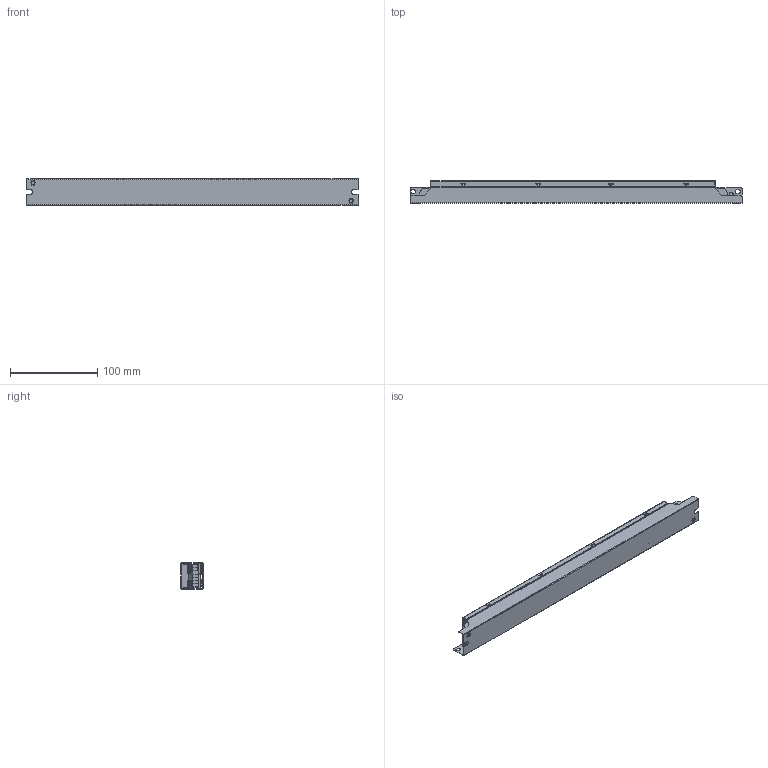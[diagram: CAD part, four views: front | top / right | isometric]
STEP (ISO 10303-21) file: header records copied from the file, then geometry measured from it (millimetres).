
FILE_DESCRIPTION((''),'2;1');
FILE_NAME('MAC085TD2300UD-YU6_241022_ASM','2026-07-20T14:41:16',('15365'),(''),'CREO PARAMETRIC BY PTC INC, 2025323','CREO PARAMETRIC BY PTC INC, 2025323','');
FILE_SCHEMA(('CONFIG_CONTROL_DESIGN','SHAPE_APPEARANCE_LAYERS_GROUPS'));
Length unit declared in the file: inch
Products named in the file (165): 85W_BOTTOM_21_1_1_1_1; 85W_TOP_24_1_1_1_1; NEILUOWEN-M3_10_1_1_2_1_1_1; OPEN_CASCADE_STEP_TRANSLATO-247; OPEN_CASCADE_STEP_TRANSLATO-237_ASM; BOARD_ASM_10_ASM_1_ASM_1_ASM_1_ASM; R_1206-7060_1_1_1_1_1; R_1206-7060_2_1_1_1_1; R_1206-7060_3_1_1_1_1; R_1206-7060_ASM_1_ASM_1_ASM_1_1_ASM; LOGO_-11556_1_1_1_1_1; LOGO_-11556_2_1_1_1_1; LOGO_-11556_3_1_1_1_1; LOGO_-11556_4_1_1_1_1; LOGO_-11556_5_1_1_1_1; LOGO_-11556_6_1_1_1_1; LOGO_-11556_7_1_1_1_1; LOGO_-11556_8_1_1_1_1; LOGO_-11556_9_1_1_1_1; LOGO_-11556_10_1_1_1_1; LOGO_-11556_11_1_1_1_1; LOGO_-11556_12_1_1_1_1; LOGO_-11556_13_1_1_1_1; LOGO_-11556_14_1_1_1_1; LOGO_-11556_ASM_1_ASM_1_ASM_1_1_ASM; R_1206-7046_ASM_1_ASM_1_ASM_1_1_ASM; R33_ASM_1_1_ASM_1_ASM_1_ASM_1_ASM; R41_ASM_3_ASM_2_ASM_1_ASM_1_ASM; S1_ASM_2_1_1_1; EXTRUDED-22759_1_1_1_1; 6666250304_ASM_1_ASM_1_ASM_1__1_ASM; R137_ASM_1_ASM_1_ASM_1_ASM_1_ASM; P7_ASM_1_1_1_1; EXTRUDED-34068_1_1_1_1; 6666249824_ASM_1_ASM_1_ASM_1__1_ASM; C80_ASM_1_ASM_1_ASM_1_ASM_1_ASM; C79_ASM_1_ASM_1_ASM_1_ASM_1_ASM; C40_ASM_1_ASM_1_ASM_1_ASM_1_ASM; CIRCUITWORKS-1206_RESISTOR_1_2_; C8_ASM_2_1_ASM_1_ASM_1_ASM_1_ASM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
Assembly tree (193 placements, depth 10):
  MAC085TD2300UD-YU6_241022_ASM
    85_TD_240808_ASM_1_ASM_1_ASM
      85_TD_240521_ASM_1_ASM_1_ASM_1_ASM
        85W-CASE_ASM_10_1_ASM_1_ASM_1_1_ASM
          85W_BOTTOM_21_1_1_1_1
          85W_TOP_24_1_1_1_1
          NEILUOWEN-M3_10_1_1_2_1_1_1  x2
          MAC-TD-PS-MCU_-_0_0001_ASM_2_1__ASM
            PCB_ASM_11_ASM_1_ASM_1_ASM_1_ASM
              BOARD_ASM_10_ASM_1_ASM_1_ASM_1_ASM
                OPEN_CASCADE_STEP_TRANSLATO-237_ASM
                  OPEN_CASCADE_STEP_TRANSLATO-247
              R33_ASM_1_1_ASM_1_ASM_1_ASM_1_ASM
                R_1206-7046_ASM_1_ASM_1_ASM_1_1_ASM
                  R_1206-7060_ASM_1_ASM_1_ASM_1_1_ASM
                  LOGO_-11556_ASM_1_ASM_1_ASM_1_1_ASM
              R41_ASM_3_ASM_2_ASM_1_ASM_1_ASM
                R_1206-7046_ASM_1_ASM_1_ASM_1_1_ASM
                  R_1206-7060_ASM_1_ASM_1_ASM_1_1_ASM
                  LOGO_-11556_ASM_1_ASM_1_ASM_1_1_ASM
              S1_ASM_2_1_1_1
              R137_ASM_1_ASM_1_ASM_1_ASM_1_ASM
                6666250304_ASM_1_ASM_1_ASM_1__1_ASM
                  EXTRUDED-22759_1_1_1_1
              P7_ASM_1_1_1_1
              C80_ASM_1_ASM_1_ASM_1_ASM_1_ASM
                6666249824_ASM_1_ASM_1_ASM_1__1_ASM
                  EXTRUDED-34068_1_1_1_1
              C79_ASM_1_ASM_1_ASM_1_ASM_1_ASM
                6666249824_ASM_1_ASM_1_ASM_1__1_ASM
                  EXTRUDED-34068_1_1_1_1
              C40_ASM_1_ASM_1_ASM_1_ASM_1_ASM
                R_1206-7046_ASM_1_ASM_1_ASM_1_1_ASM
                  R_1206-7060_ASM_1_ASM_1_ASM_1_1_ASM
                  LOGO_-11556_ASM_1_ASM_1_ASM_1_1_ASM
              C8_ASM_2_1_ASM_1_ASM_1_ASM_1_ASM
                CIRCUITWORKS-1206_RESISTOR_1_2_
              C6_ASM_2_ASM_1_ASM_1_ASM_1_ASM
                R_1206-7046_ASM_1_ASM_1_ASM_1_1_ASM
                  R_1206-7060_ASM_1_ASM_1_ASM_1_1_ASM
                  LOGO_-11556_ASM_1_ASM_1_ASM_1_1_ASM
              C5_ASM_1_ASM_1_ASM_1_ASM_1_ASM
                R_1206-7046_ASM_1_ASM_1_ASM_1_1_ASM
                  R_1206-7060_ASM_1_ASM_1_ASM_1_1_ASM
                  LOGO_-11556_ASM_1_ASM_1_ASM_1_1_ASM
              C4_ASM_2_ASM_1_ASM_1_ASM_1_ASM
                CIRCUITWORKS-1206_RESISTOR_2__2
              C2_ASM_3_ASM_1_ASM_1_ASM_1_ASM
                R_1206-7046_ASM_1_ASM_1_ASM_1_1_ASM
                  R_1206-7060_ASM_1_ASM_1_ASM_1_1_ASM
                  LOGO_-11556_ASM_1_ASM_1_ASM_1_1_ASM
              C1_ASM_3_ASM_1_ASM_1_ASM_1_ASM
                R_1206-7046_ASM_1_ASM_1_ASM_1_1_ASM
                  R_1206-7060_ASM_1_ASM_1_ASM_1_1_ASM
                  LOGO_-11556_ASM_1_ASM_1_ASM_1_1_ASM
              P5_ASM_1_1_1_1
              Q2_ASM_4_ASM_2_ASM_1_ASM_1_ASM
                USER_LIBRARY-DPAK-1_1_1_2_1_1
              Q1_ASM_4_ASM_2_ASM_1_ASM_1_ASM
                USER_LIBRARY-DPAK-1_2_1_2_1_1_2
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Bounding box: 380 x 25.4 x 30 mm (x, y, z)
Volume: 46460.5 mm3; surface area: 120754.5 mm2
Topology: 94 solids, 338 shells, 3862 faces, 10576 edges, 7476 vertices
Faces by surface type: plane 2556, cylinder 910, torus 178, extrusion 118, bspline 84, cone 16
Entity records: 128923 total; most frequent: CARTESIAN_POINT 29150, DIRECTION 14544, ORIENTED_EDGE 14276, PRESENTATION_STYLE_ASSIGNMENT 7782, EDGE_CURVE 7288, STYLED_ITEM 7148, CURVE_STYLE 6897, AXIS2_PLACEMENT_3D 5021
